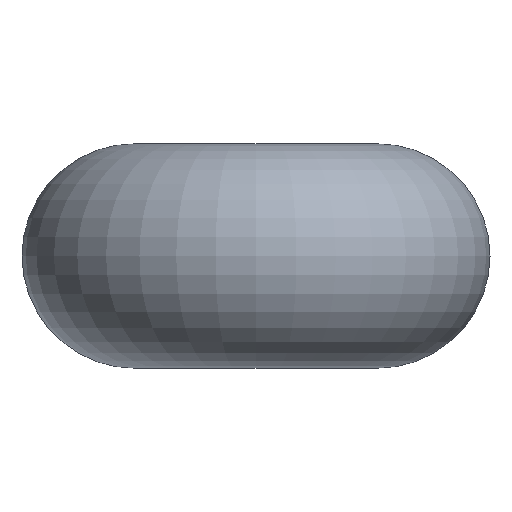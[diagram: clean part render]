
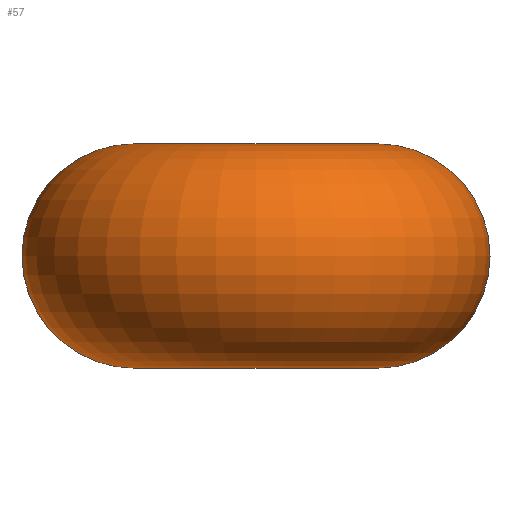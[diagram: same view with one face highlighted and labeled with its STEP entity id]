
A CAD part, left-side view. The second image highlights one B-rep face of the part: STEP entity #57.
In plain terms, the highlighted toroidal (fillet/blend) face has major radius 2.5 mm and minor radius 2.3 mm.
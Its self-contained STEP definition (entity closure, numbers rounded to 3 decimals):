
#23 = ORIENTED_EDGE ( 'NONE', *, *, #89, .F. ) ;
#24 = ORIENTED_EDGE ( 'NONE', *, *, #56, .T. ) ;
#25 = ORIENTED_EDGE ( 'NONE', *, *, #69, .T. ) ;
#26 = ORIENTED_EDGE ( 'NONE', *, *, #44, .T. ) ;
#27 = ORIENTED_EDGE ( 'NONE', *, *, #53, .F. ) ;
#28 = ORIENTED_EDGE ( 'NONE', *, *, #29, .F. ) ;
#29 = EDGE_CURVE ( 'NONE', #86, #51, #330, .T. ) ;
#44 = EDGE_CURVE ( 'NONE', #47, #46, #266, .T. ) ;
#46 = VERTEX_POINT ( 'NONE', #261 ) ;
#47 = VERTEX_POINT ( 'NONE', #260 ) ;
#51 = VERTEX_POINT ( 'NONE', #217 ) ;
#53 = EDGE_CURVE ( 'NONE', #51, #46, #215, .T. ) ;
#56 = EDGE_CURVE ( 'NONE', #88, #74, #210, .T. ) ;
#57 = ADVANCED_FACE ( 'NONE', ( #206 ), #205, .T. ) ;
#58 = EDGE_LOOP ( 'NONE', ( #23, #24, #25, #26, #27, #28 ) ) ;
#69 = EDGE_CURVE ( 'NONE', #74, #47, #241, .T. ) ;
#74 = VERTEX_POINT ( 'NONE', #229 ) ;
#86 = VERTEX_POINT ( 'NONE', #174 ) ;
#88 = VERTEX_POINT ( 'NONE', #173 ) ;
#89 = EDGE_CURVE ( 'NONE', #88, #86, #171, .T. ) ;
#167 = DIRECTION ( 'NONE',  ( 0., 0., -1. ) ) ;
#168 = DIRECTION ( 'NONE',  ( 0.651, -0.759, 0. ) ) ;
#169 = CARTESIAN_POINT ( 'NONE',  ( 1.898, 1.627, 0. ) ) ;
#170 = AXIS2_PLACEMENT_3D ( 'NONE', #169, #168, #167 ) ;
#171 = CIRCLE ( 'NONE', #170, 2.3 ) ;
#173 = CARTESIAN_POINT ( 'NONE',  ( 1.898, 1.627, -2.3 ) ) ;
#174 = CARTESIAN_POINT ( 'NONE',  ( 3.645, 3.123, 0. ) ) ;
#205 = TOROIDAL_SURFACE ( 'NONE', #258, 2.5, 2.3 ) ;
#206 = FACE_OUTER_BOUND ( 'NONE', #58, .T. ) ;
#207 = DIRECTION ( 'NONE',  ( 1., 0., 0. ) ) ;
#208 = DIRECTION ( 'NONE',  ( 0., 0., 1. ) ) ;
#209 = AXIS2_PLACEMENT_3D ( 'NONE', #216, #208, #207 ) ;
#210 = CIRCLE ( 'NONE', #209, 2.5 ) ;
#211 = DIRECTION ( 'NONE',  ( 1., 0., 0. ) ) ;
#212 = DIRECTION ( 'NONE',  ( 0., 0., 1. ) ) ;
#213 = CARTESIAN_POINT ( 'NONE',  ( 0., 0., 2.3 ) ) ;
#214 = AXIS2_PLACEMENT_3D ( 'NONE', #213, #212, #211 ) ;
#215 = CIRCLE ( 'NONE', #214, 2.5 ) ;
#216 = CARTESIAN_POINT ( 'NONE',  ( 0., 0., -2.3 ) ) ;
#217 = CARTESIAN_POINT ( 'NONE',  ( 1.898, 1.627, 2.3 ) ) ;
#229 = CARTESIAN_POINT ( 'NONE',  ( 1.898, -1.627, -2.3 ) ) ;
#234 = DIRECTION ( 'NONE',  ( 0., 0., -1. ) ) ;
#235 = DIRECTION ( 'NONE',  ( -0.651, -0.759, 0. ) ) ;
#236 = CARTESIAN_POINT ( 'NONE',  ( 1.898, -1.627, 0. ) ) ;
#237 = AXIS2_PLACEMENT_3D ( 'NONE', #236, #235, #234 ) ;
#241 = CIRCLE ( 'NONE', #237, 2.3 ) ;
#255 = DIRECTION ( 'NONE',  ( 1., 0., 0. ) ) ;
#256 = DIRECTION ( 'NONE',  ( 0., 0., 1. ) ) ;
#257 = CARTESIAN_POINT ( 'NONE',  ( 0., 0., 0. ) ) ;
#258 = AXIS2_PLACEMENT_3D ( 'NONE', #257, #256, #255 ) ;
#260 = CARTESIAN_POINT ( 'NONE',  ( 3.645, -3.123, 0. ) ) ;
#261 = CARTESIAN_POINT ( 'NONE',  ( 1.898, -1.627, 2.3 ) ) ;
#262 = DIRECTION ( 'NONE',  ( 0., 0., -1. ) ) ;
#263 = DIRECTION ( 'NONE',  ( -0.651, -0.759, 0. ) ) ;
#264 = CARTESIAN_POINT ( 'NONE',  ( 1.898, -1.627, 0. ) ) ;
#265 = AXIS2_PLACEMENT_3D ( 'NONE', #264, #263, #262 ) ;
#266 = CIRCLE ( 'NONE', #265, 2.3 ) ;
#326 = DIRECTION ( 'NONE',  ( 0., 0., -1. ) ) ;
#327 = DIRECTION ( 'NONE',  ( 0.651, -0.759, 0. ) ) ;
#328 = CARTESIAN_POINT ( 'NONE',  ( 1.898, 1.627, 0. ) ) ;
#329 = AXIS2_PLACEMENT_3D ( 'NONE', #328, #327, #326 ) ;
#330 = CIRCLE ( 'NONE', #329, 2.3 ) ;
